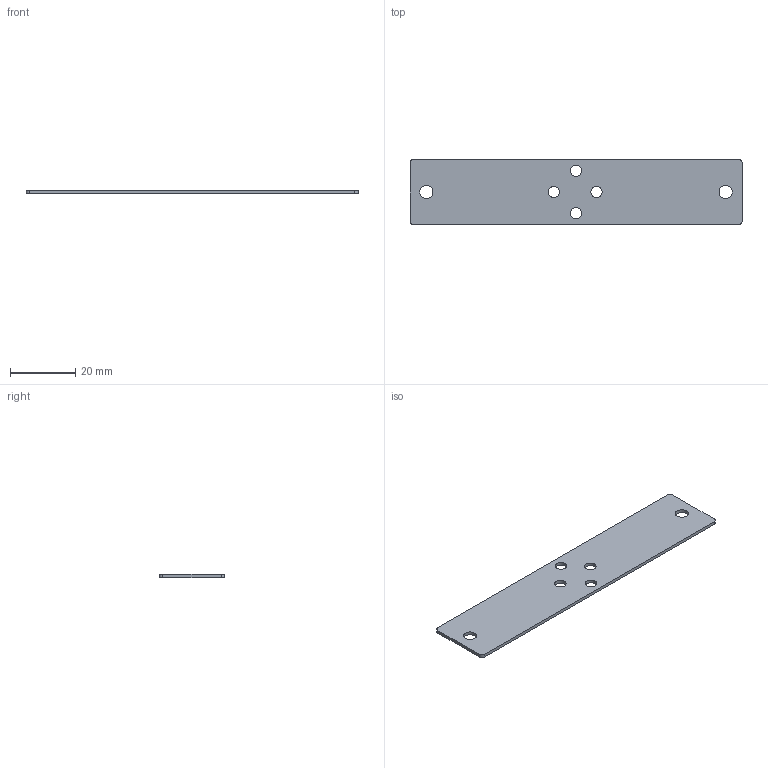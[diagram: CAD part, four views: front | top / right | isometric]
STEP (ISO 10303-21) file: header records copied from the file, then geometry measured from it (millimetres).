
FILE_DESCRIPTION(('FreeCAD Model'),'2;1');
FILE_NAME('X:/Technische Zeichnungen/EX-1180HMS/M_EX-1180HMS_3D.step', '2021-03-22T08:19:15',('Author'),(''), 'Open CASCADE STEP processor 7.3','FreeCAD','Unknown');
FILE_SCHEMA(('AUTOMOTIVE_DESIGN { 1 0 10303 214 1 1 1 1 }'));
Length unit declared in the file: millimetre
Products named in the file (1): Montageplatte_1180HMS
Bounding box: 101.5 x 20 x 1 mm (x, y, z)
Volume: 1965.5 mm3; surface area: 4241.4 mm2
Topology: 1 solids, 1 shells, 16 faces, 42 edges, 28 vertices
Faces by surface type: cylinder 10, plane 6
Full cylindrical faces by diameter (mm): 3.5 x4, 4 x2
Entity records: 1212 total; most frequent: CARTESIAN_POINT 195, DIRECTION 176, LINE 86, VECTOR 86, ORIENTED_EDGE 84, PCURVE 84, DEFINITIONAL_REPRESENTATION 84, EDGE_CURVE 42
